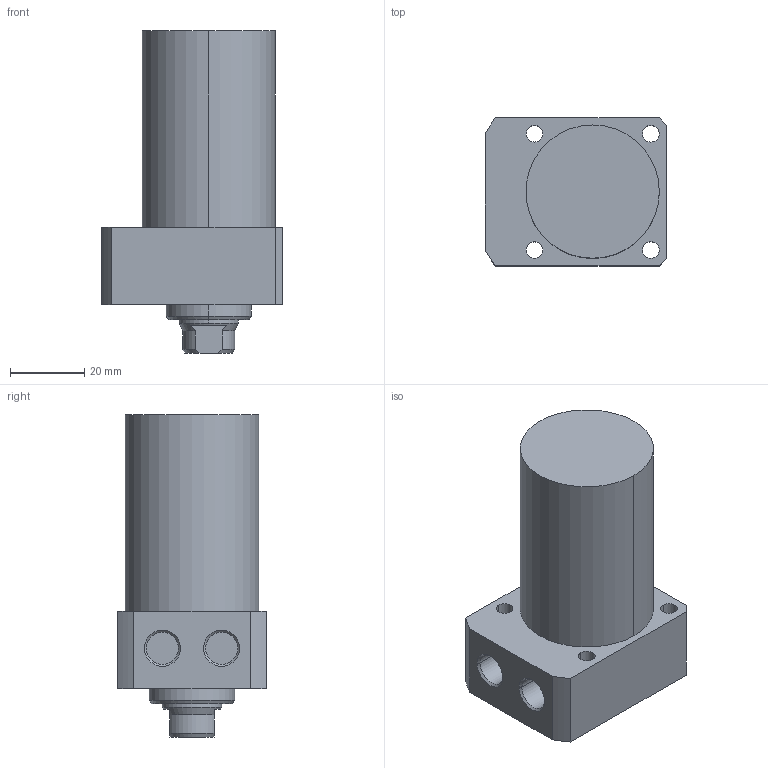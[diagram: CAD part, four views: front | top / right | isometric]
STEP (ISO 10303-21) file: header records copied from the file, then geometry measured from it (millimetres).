
FILE_DESCRIPTION((' '),'2;1');
FILE_NAME( 'TLLR-036CA-045.STEP.stp', '2025-10-24T16:35:44', (' '), ('--- Datakit www.datakit.com---'), ' Datakit CrossCadWare V2024.1 Dec 21 2023', 'Mastercam 2025', ' ');
FILE_SCHEMA(('AUTOMOTIVE_DESIGN { 1 0 10303 214 1 1 1 1 }'));
Length unit declared in the file: millimetre
Products named in the file (1): TLLR-036CA-045
Bounding box: 49 x 40 x 87 mm (x, y, z)
Volume: 94651.1 mm3; surface area: 16073.9 mm2
Topology: 1 solids, 1 shells, 61 faces, 172 edges, 119 vertices
Faces by surface type: cylinder 28, plane 19, cone 14
Entity records: 2092 total; most frequent: DIRECTION 384, CARTESIAN_POINT 383, ORIENTED_EDGE 340, EDGE_CURVE 170, AXIS2_PLACEMENT_3D 160, VERTEX_POINT 119, CIRCLE 98, EDGE_LOOP 77
